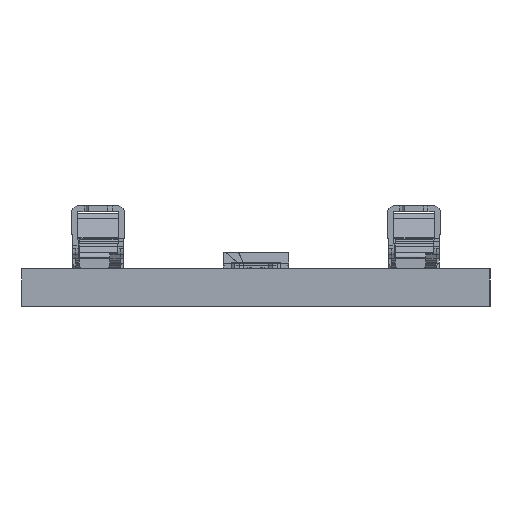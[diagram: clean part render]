
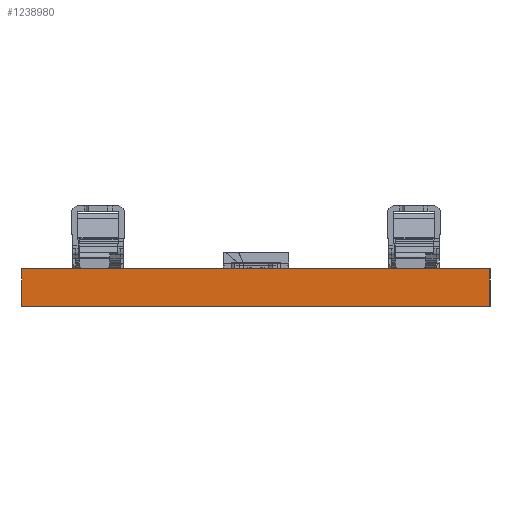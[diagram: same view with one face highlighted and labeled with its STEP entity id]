
A CAD part, left-side view. The second image highlights one B-rep face of the part: STEP entity #1238980.
In plain terms, the highlighted planar face has unit normal (-1, 0, 0).
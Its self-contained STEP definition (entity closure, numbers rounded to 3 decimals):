
#1219730=CARTESIAN_POINT('',(63.848,50.036,0.));
#1219740=DIRECTION('',(0.,1.,0.));
#1219750=VECTOR('',#1219740,0.039);
#1219760=LINE('',#1219730,#1219750);
#1219770=CARTESIAN_POINT('',(63.848,50.036,0.));
#1219780=VERTEX_POINT('',#1219770);
#1219790=CARTESIAN_POINT('',(63.848,70.036,0.));
#1219800=VERTEX_POINT('',#1219790);
#1219810=EDGE_CURVE('',#1219780,#1219800,#1219760,.T.);
#1226120=CARTESIAN_POINT('',(63.848,50.036,-1.6));
#1226130=VERTEX_POINT('',#1226120);
#1228260=CARTESIAN_POINT('',(63.848,70.036,-1.6));
#1228270=VERTEX_POINT('',#1228260);
#1228300=CARTESIAN_POINT('',(63.848,50.036,-1.6));
#1228310=DIRECTION('',(0.,1.,0.));
#1228320=VECTOR('',#1228310,0.039);
#1228330=LINE('',#1228300,#1228320);
#1228340=EDGE_CURVE('',#1226130,#1228270,#1228330,.T.);
#1232470=CARTESIAN_POINT('',(63.848,50.036,0.));
#1232480=DIRECTION('',(0.,0.,-1.));
#1232490=VECTOR('',#1232480,1.);
#1232500=LINE('',#1232470,#1232490);
#1232510=EDGE_CURVE('',#1219780,#1226130,#1232500,.T.);
#1238690=CARTESIAN_POINT('',(63.848,70.036,0.));
#1238700=DIRECTION('',(0.,0.,-1.));
#1238710=VECTOR('',#1238700,1.);
#1238720=LINE('',#1238690,#1238710);
#1238730=EDGE_CURVE('',#1219800,#1228270,#1238720,.T.);
#1238870=CARTESIAN_POINT('',(63.848,50.036,0.));
#1238880=DIRECTION('',(1.,0.,0.));
#1238890=DIRECTION('',(0.,-1.,0.));
#1238900=AXIS2_PLACEMENT_3D('',#1238870,#1238880,#1238890);
#1238910=PLANE('',#1238900);
#1238920=ORIENTED_EDGE('',*,*,#1219810,.T.);
#1238930=ORIENTED_EDGE('',*,*,#1232510,.F.);
#1238940=ORIENTED_EDGE('',*,*,#1228340,.F.);
#1238950=ORIENTED_EDGE('',*,*,#1238730,.T.);
#1238960=EDGE_LOOP('',(#1238950,#1238940,#1238930,#1238920));
#1238970=FACE_OUTER_BOUND('',#1238960,.T.);
#1238980=ADVANCED_FACE('',(#1238970),#1238910,.F.);
